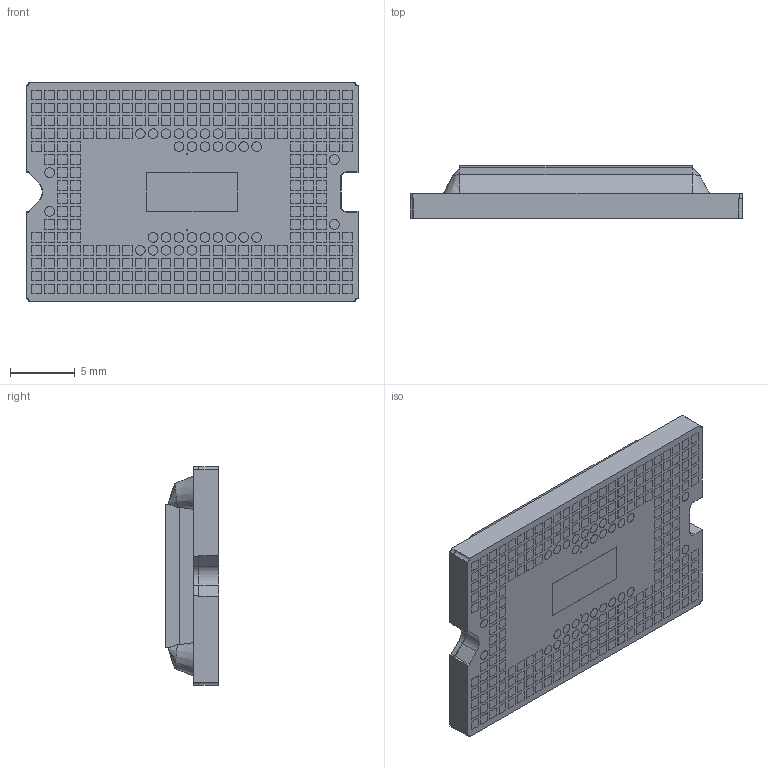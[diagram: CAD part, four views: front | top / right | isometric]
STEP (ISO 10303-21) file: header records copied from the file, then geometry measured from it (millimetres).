
FILE_DESCRIPTION (( 'STEP AP214' ), '1' );
FILE_NAME ('47-4K-s317-DMD-Assy-wPads.STEP', '2018-12-20T20:57:09', ( '' ), ( '' ), 'SwSTEP 2.0', 'SolidWorks 2017', '' );
FILE_SCHEMA (( 'AUTOMOTIVE_DESIGN' ));
Length unit declared in the file: millimetre
Products named in the file (6): 47-4K-s317-DMD-Assy-wPads; Test-Elec-Pad-s317; Window-47-4K-s317; SymPadA-s317; Elec-Pad-s317-DMD; Ceramic-47-4K-s317
Assembly tree (273 placements, depth 2):
  47-4K-s317-DMD-Assy-wPads
    Ceramic-47-4K-s317
    Window-47-4K-s317
    Elec-Pad-s317-DMD  x238
    Test-Elec-Pad-s317  x32
    SymPadA-s317
Bounding box: 25.65 x 4.12 x 16.9 mm (x, y, z)
Volume: 1328.6 mm3; surface area: 2067.8 mm2
Topology: 273 solids, 273 shells, 1656 faces, 3308 edges, 2200 vertices
Faces by surface type: plane 1562, cylinder 86, bspline 8
Entity records: 6602 total; most frequent: CARTESIAN_POINT 1397, DIRECTION 1062, ORIENTED_EDGE 548, AXIS2_PLACEMENT_3D 426, PRODUCT_DEFINITION_SHAPE 279, EDGE_CURVE 274, ITEM_DEFINED_TRANSFORMATION 273, CONTEXT_DEPENDENT_SHAPE_REPRESENTATION 273
